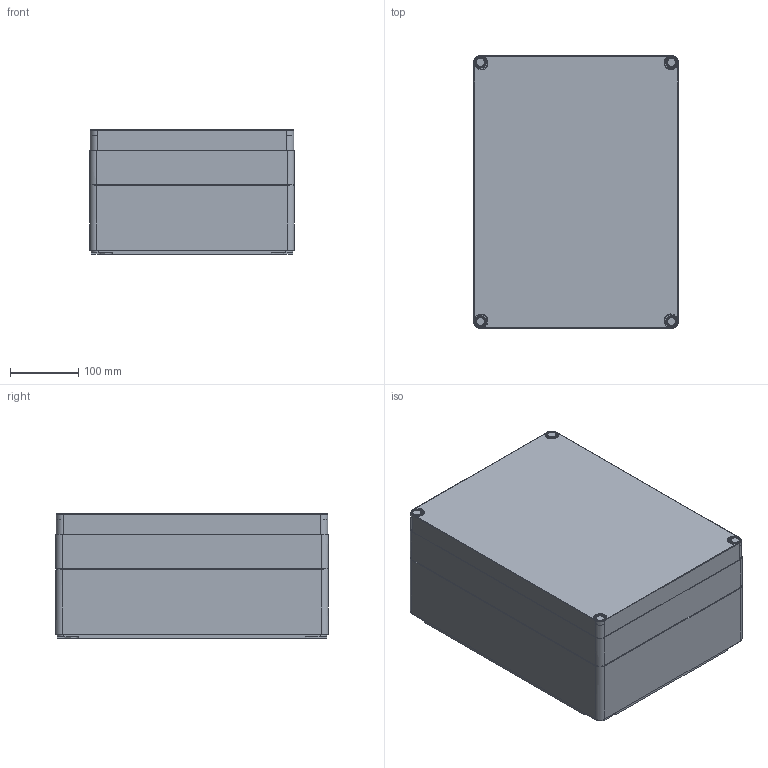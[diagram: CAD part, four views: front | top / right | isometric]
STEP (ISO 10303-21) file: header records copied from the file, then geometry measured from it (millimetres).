
FILE_DESCRIPTION((''),'1');
FILE_NAME('24','2001-04-17T',('jlue'),(''),'PRO/ENGINEER BY PARAMETRIC TECHNOLOGY CORPORATION, 9846','PRO/ENGINEER BY PARAMETRIC TECHNOLOGY CORPORATION, 9846','');
FILE_SCHEMA(('CONFIG_CONTROL_DESIGN'));
Length unit declared in the file: millimetre
Products named in the file (1): 24
Bounding box: 300 x 400 x 182 mm (x, y, z)
Surface area: 989489.5 mm2 (no closed solid volume)
Topology: 0 solids, 0 shells, 599 faces, 3004 edges, 3092 vertices
Faces by surface type: cylinder 296, plane 283, torus 20
Entity records: 15594 total; most frequent: DIRECTION 3362, COMPOSITE_CURVE_SEGMENT 2856, CARTESIAN_POINT 2233, TRIMMED_CURVE 1528, AXIS2_PLACEMENT_3D 1235, VECTOR 892, LINE 892, CIRCLE 636
